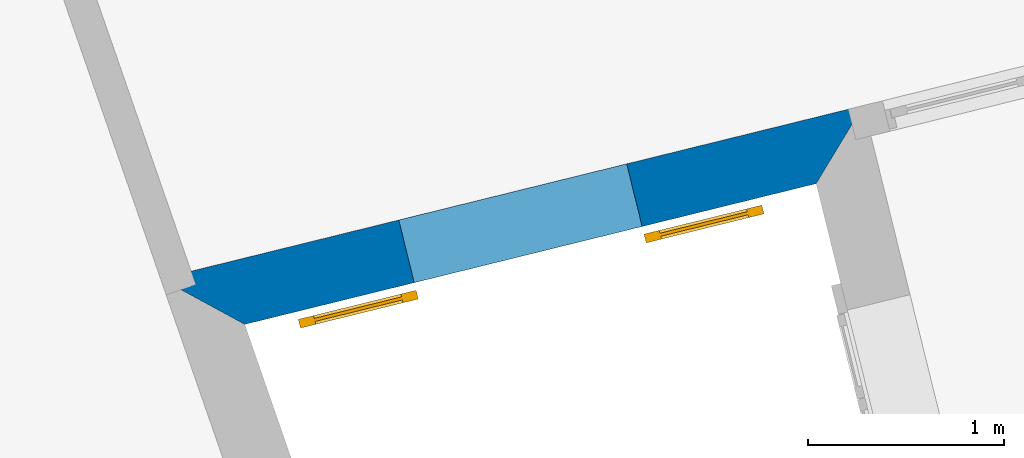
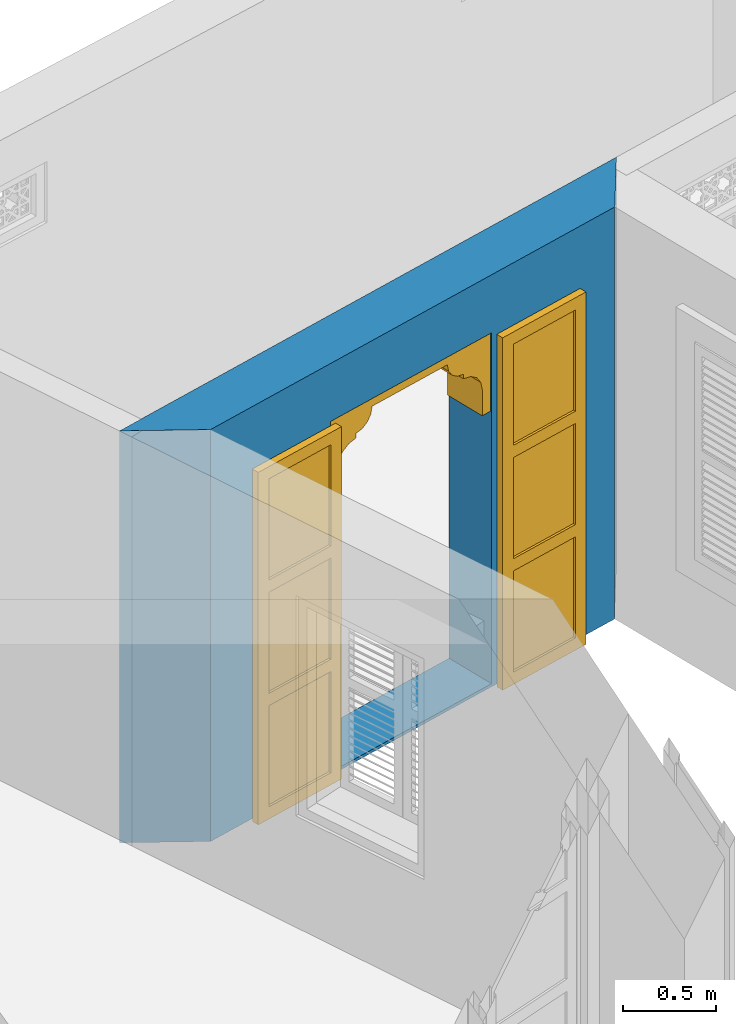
# One storey, part 7 of 12: 1 door, 1 wall, 1 opening.
"""IFC4 building model written with IfcOpenShell, lengths in metres."""

from ifc_helpers import new_model, si_unit, frame, origin, origin_with_axes, place, context, subcontext, project, spatial, polyline, outline, extrude, faceted_brep, source, transform, mapped, material, layer, layer_set, layer_usage, type_object, type_shapes, element, fill, save


model = new_model("IFC4")

# Units and contexts
model_context = context("Model", 3, world=origin_with_axes())
body_context = subcontext(model_context, "Body", "Model", "MODEL_VIEW")
ifc_project = project(units=[si_unit("PLANEANGLEUNIT", "RADIAN"), si_unit("MASSUNIT", "GRAM", prefix="KILO"), si_unit("FORCEUNIT", "NEWTON", prefix="KILO"), si_unit("LENGTHUNIT", "METRE"), si_unit("AREAUNIT", "SQUARE_METRE"), si_unit("VOLUMEUNIT", "CUBIC_METRE")], contexts=[model_context, model_context])

# Site, building, storey
site_placement = place(None, origin_with_axes())
site = spatial("IfcSite", under=ifc_project, at=site_placement, Name="Site plot-1", CompositionType="ELEMENT")
building_placement = place(None, origin_with_axes())
building = spatial("IfcBuilding", under=site, at=building_placement, Name="Building plot-1", CompositionType="ELEMENT")
storey_placement = place(None, origin_with_axes())
storey = spatial("IfcBuildingStorey", under=building, at=storey_placement, Name="plot-1 0", CompositionType="ELEMENT", Elevation=0.0)

# Wall, opening, door
ifc_material = material(Name="Masonry")
ifc_layer = layer(ifc_material, 0.33, ventilated=False)
ifc_layer_set = layer_set([ifc_layer], Name="exterior_0.08_0.25")
ifc_layer_usage = layer_usage(ifc_layer_set, "AXIS2", "POSITIVE", -0.25)
wall_type = type_object("IfcWallType", Name="exterior_0.08_0.25", PredefinedType="SOLIDWALL", material=ifc_layer_set)
wall_placement = place(storey_placement, frame((-1.5872585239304, 23.0501758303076, 0.0), z_axis=(0.0, 0.0, 1.0), x_axis=(0.970961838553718, 0.239234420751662, 0.0)))
wall = element("IfcWall", 1, at=wall_placement, inside=storey, type_object=wall_type, material=ifc_layer_usage, Name="exterior", context=body_context, shape_type="SweptSolid", body=[
    extrude(outline(polyline([(-0.0877822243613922, 0.0799999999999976), (0.274319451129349, -0.250000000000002), (3.28215081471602, -0.250000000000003), (3.61215081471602, 0.0799999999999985), (-0.0877822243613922, 0.0799999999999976)])), origin_with_axes(), (0.0, 0.0, 1.0), 2.7),
])
opening_placement = place(wall_placement, frame((1.16607540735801, 0.0, 0.02)))
opening = element("IfcOpeningElement", 2, at=opening_placement, cuts=wall, Name="My Opening", ObjectType="Opening", context=body_context, shape_type="SweptSolid", body=[
    extrude(outline(polyline([(0.0, -0.270000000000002), (1.2, -0.27), (1.2, 1.1), (2.22044604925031e-16, 1.1), (0.0, -0.270000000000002)])), origin_with_axes(), (0.0, 0.0, 1.0), 2.3),
])
door_type = type_object("IfcDoorType", Name="arch-1200x2300", OperationType="SINGLE_SWING_LEFT", PredefinedType="NOTDEFINED")
shared_shape = source(origin(), body_context, "Body", "Brep", [
    faceted_brep([(-0.08, -0.02, 0.08), (-0.08, -0.02, 0.0), (-0.54, -0.02, 0.0), (-0.54, -0.02, 0.08), (-0.62, -0.02, 0.0), (-0.62, -0.02, 0.08), (-0.54, -0.035, 0.08), (-0.08, -0.035, 0.08), (0.0, -0.02, 0.08), (0.0, -0.02, 0.0), (-0.08, -0.066, 0.0), (-0.54, -0.066, 0.0), (-0.62, -0.066, 0.0), (-0.62, -0.066, 0.08), (-0.54, -0.02, 0.743333), (-0.62, -0.02, 0.743333), (-0.54, -0.035, 0.743333), (-0.08, -0.035, 0.743333), (-0.08, -0.02, 0.743333), (0.0, -0.02, 0.743333), (0.0, -0.066, 0.08), (0.0, -0.066, 0.0), (-0.54, -0.066, 0.08), (-0.08, -0.066, 0.08), (-0.62, -0.066, 0.743333), (-0.54, -0.02, 0.823333), (-0.62, -0.02, 0.823333), (0.0, -0.066, 0.743333), (0.0, -0.02, 0.823333), (-0.08, -0.02, 0.823333), (-0.08, -0.051, 0.08), (-0.54, -0.051, 0.08), (-0.54, -0.066, 0.743333), (-0.62, -0.066, 0.823333), (-0.54, -0.02, 1.486667), (-0.62, -0.02, 1.486667), (0.0, -0.066, 0.823333), (-0.08, -0.066, 0.743333), (0.0, -0.02, 1.486667), (-0.08, -0.02, 1.486667), (-0.08, -0.051, 0.743333), (-0.54, -0.051, 0.743333), (-0.54, -0.066, 0.823333), (-0.62, -0.066, 1.486667), (-0.54, -0.035, 0.823333), (-0.08, -0.035, 0.823333), (-0.54, -0.035, 1.486667), (-0.54, -0.02, 1.566667), (-0.62, -0.02, 1.566667), (0.0, -0.066, 1.486667), (-0.08, -0.066, 0.823333), (-0.08, -0.035, 1.486667), (0.0, -0.02, 1.566667), (-0.08, -0.02, 1.566667), (-0.54, -0.066, 1.486667), (-0.62, -0.066, 1.566667), (-0.54, -0.02, 2.23), (-0.62, -0.02, 2.23), (0.0, -0.066, 1.566667), (-0.08, -0.066, 1.486667), (0.0, -0.02, 2.23), (-0.08, -0.02, 2.23), (-0.08, -0.051, 0.823333), (-0.54, -0.051, 0.823333), (-0.54, -0.051, 1.486667), (-0.54, -0.066, 1.566667), (-0.62, -0.066, 2.23), (-0.54, -0.035, 1.566667), (-0.08, -0.035, 1.566667), (-0.54, -0.035, 2.23), (-0.54, -0.02, 2.31), (-0.62, -0.02, 2.31), (0.0, -0.066, 2.23), (-0.08, -0.066, 1.566667), (-0.08, -0.051, 1.486667), (-0.08, -0.035, 2.23), (0.0, -0.02, 2.31), (-0.08, -0.02, 2.31), (-0.54, -0.066, 2.23), (-0.62, -0.066, 2.31), (-0.54, -0.066, 2.31), (0.0, -0.066, 2.31), (-0.08, -0.066, 2.23), (-0.08, -0.066, 2.31), (-0.08, -0.051, 1.566667), (-0.54, -0.051, 1.566667), (-0.54, -0.051, 2.23), (-0.08, -0.051, 2.23), (1.74, -0.02, 0.08), (1.74, -0.02, 0.0), (1.28, -0.02, 0.0), (1.28, -0.02, 0.08), (1.82, -0.02, 0.08), (1.82, -0.02, 0.0), (1.28, -0.035, 0.08), (1.74, -0.035, 0.08), (1.2, -0.02, 0.0), (1.2, -0.02, 0.08), (1.74, -0.066, 0.0), (1.28, -0.066, 0.0), (1.82, -0.066, 0.08), (1.82, -0.066, 0.0), (1.82, -0.02, 0.743333), (1.74, -0.02, 0.743333), (1.74, -0.035, 0.743333), (1.28, -0.035, 0.743333), (1.28, -0.02, 0.743333), (1.2, -0.02, 0.743333), (1.2, -0.066, 0.0), (1.2, -0.066, 0.08), (1.28, -0.066, 0.08), (1.74, -0.066, 0.08), (1.82, -0.066, 0.743333), (1.82, -0.02, 0.823333), (1.74, -0.02, 0.823333), (1.2, -0.066, 0.743333), (1.28, -0.02, 0.823333), (1.2, -0.02, 0.823333), (1.74, -0.051, 0.08), (1.28, -0.051, 0.08), (1.74, -0.066, 0.743333), (1.82, -0.066, 0.823333), (1.82, -0.02, 1.486667), (1.74, -0.02, 1.486667), (1.2, -0.066, 0.823333), (1.28, -0.066, 0.743333), (1.28, -0.02, 1.486667), (1.2, -0.02, 1.486667), (1.28, -0.051, 0.743333), (1.74, -0.051, 0.743333), (1.74, -0.066, 0.823333), (1.82, -0.066, 1.486667), (1.28, -0.035, 0.823333), (1.74, -0.035, 0.823333), (1.74, -0.035, 1.486667), (1.82, -0.02, 1.566667), (1.74, -0.02, 1.566667), (1.2, -0.066, 1.486667), (1.28, -0.066, 0.823333), (1.28, -0.035, 1.486667), (1.28, -0.02, 1.566667), (1.2, -0.02, 1.566667), (1.74, -0.066, 1.486667), (1.82, -0.066, 1.566667), (1.82, -0.02, 2.23), (1.74, -0.02, 2.23), (1.2, -0.066, 1.566667), (1.28, -0.066, 1.486667), (1.28, -0.02, 2.23), (1.2, -0.02, 2.23), (1.74, -0.051, 0.823333), (1.28, -0.051, 0.823333), (1.74, -0.051, 1.486667), (1.74, -0.066, 1.566667), (1.82, -0.066, 2.23), (1.28, -0.035, 1.566667), (1.74, -0.035, 1.566667), (1.74, -0.035, 2.23), (1.82, -0.02, 2.31), (1.74, -0.02, 2.31), (1.2, -0.066, 2.23), (1.28, -0.066, 1.566667), (1.28, -0.051, 1.486667), (1.28, -0.035, 2.23), (1.28, -0.02, 2.31), (1.2, -0.02, 2.31), (1.74, -0.066, 2.23), (1.82, -0.066, 2.31), (1.74, -0.066, 2.31), (1.2, -0.066, 2.31), (1.28, -0.066, 2.23), (1.28, -0.066, 2.31), (1.74, -0.051, 1.566667), (1.28, -0.051, 1.566667), (1.74, -0.051, 2.23), (1.28, -0.051, 2.23), (1.2, 0.03, 1.78), (1.2, 0.03, 1.95), (1.14, 0.03, 1.95), (1.14, 0.03, 1.78), (1.14, 0.3, 1.95), (1.14, 0.3, 1.78), (1.2, 0.03, 2.12), (1.129, 0.03, 2.004), (1.2, 0.3, 1.78), (1.2, 0.3, 1.95), (1.129, 0.3, 2.004), (1.099, 0.03, 2.049), (1.2, 0.3, 2.12), (1.099, 0.3, 2.049), (1.054, 0.03, 2.079), (1.2, 0.3, 2.29), (1.2, 0.03, 2.29), (1.054, 0.3, 2.079), (1.0, 0.03, 2.09), (1.0, 0.03, 2.12), (0.954, 0.03, 2.129), (0.88, 0.3, 2.29), (0.88, 0.03, 2.29), (1.0, 0.3, 2.12), (0.954, 0.3, 2.129), (1.0, 0.3, 2.09), (0.915, 0.03, 2.155), (0.889, 0.3, 2.194), (0.88, 0.3, 2.24), (0.88, 0.03, 2.24), (0.889, 0.03, 2.194), (0.915, 0.3, 2.155), (0.06, 0.03, 1.78), (0.06, 0.03, 1.95), (0.0, 0.03, 1.95), (0.0, 0.03, 1.78), (0.06, 0.3, 1.78), (0.06, 0.3, 1.95), (0.071, 0.03, 2.004), (0.0, 0.03, 2.12), (0.0, 0.3, 1.95), (0.0, 0.3, 1.78), (0.071, 0.3, 2.004), (0.101, 0.03, 2.049), (0.0, 0.3, 2.12), (0.101, 0.3, 2.049), (0.146, 0.03, 2.079), (0.0, 0.03, 2.29), (0.0, 0.3, 2.29), (0.146, 0.3, 2.079), (0.2, 0.03, 2.12), (0.2, 0.03, 2.09), (0.246, 0.03, 2.129), (0.32, 0.03, 2.29), (0.32, 0.3, 2.29), (0.246, 0.3, 2.129), (0.2, 0.3, 2.12), (0.2, 0.3, 2.09), (0.285, 0.03, 2.155), (0.32, 0.3, 2.24), (0.311, 0.3, 2.194), (0.311, 0.03, 2.194), (0.32, 0.03, 2.24), (0.285, 0.3, 2.155)], [[[0, 1, 2, 3]], [[4, 5, 3, 2]], [[0, 3, 6, 7]], [[1, 0, 8, 9]], [[2, 1, 10, 11]], [[5, 4, 12, 13]], [[14, 3, 5, 15]], [[4, 2, 11, 12]], [[3, 14, 16, 6]], [[6, 16, 17, 7]], [[18, 0, 7, 17]], [[0, 18, 19, 8]], [[9, 8, 20, 21]], [[1, 9, 21, 10]], [[22, 11, 10, 23]], [[13, 12, 11, 22]], [[15, 5, 13, 24]], [[25, 14, 15, 26]], [[14, 18, 17, 16]], [[8, 19, 27, 20]], [[28, 19, 18, 29]], [[23, 10, 21, 20]], [[22, 23, 30, 31]], [[22, 32, 24, 13]], [[26, 15, 24, 33]], [[29, 18, 14, 25]], [[34, 25, 26, 35]], [[19, 28, 36, 27]], [[20, 27, 37, 23]], [[38, 28, 29, 39]], [[23, 37, 40, 30]], [[41, 31, 30, 40]], [[32, 22, 31, 41]], [[32, 42, 33, 24]], [[35, 26, 33, 43]], [[29, 25, 44, 45]], [[25, 34, 46, 44]], [[47, 34, 35, 48]], [[28, 38, 49, 36]], [[27, 36, 50, 37]], [[39, 29, 45, 51]], [[52, 38, 39, 53]], [[37, 32, 41, 40]], [[37, 50, 42, 32]], [[42, 54, 43, 33]], [[48, 35, 43, 55]], [[44, 46, 51, 45]], [[34, 39, 51, 46]], [[34, 47, 53, 39]], [[56, 47, 48, 57]], [[38, 52, 58, 49]], [[36, 49, 59, 50]], [[60, 52, 53, 61]], [[42, 50, 62, 63]], [[54, 42, 63, 64]], [[54, 65, 55, 43]], [[57, 48, 55, 66]], [[53, 47, 67, 68]], [[47, 56, 69, 67]], [[70, 56, 57, 71]], [[52, 60, 72, 58]], [[49, 58, 73, 59]], [[50, 59, 74, 62]], [[61, 53, 68, 75]], [[76, 60, 61, 77]], [[64, 63, 62, 74]], [[59, 54, 64, 74]], [[65, 54, 59, 73]], [[65, 78, 66, 55]], [[71, 57, 66, 79]], [[67, 69, 75, 68]], [[56, 61, 75, 69]], [[77, 61, 56, 70]], [[70, 71, 79, 80]], [[60, 76, 81, 72]], [[58, 72, 82, 73]], [[76, 77, 83, 81]], [[65, 73, 84, 85]], [[78, 65, 85, 86]], [[78, 80, 79, 66]], [[77, 70, 80, 83]], [[72, 81, 83, 82]], [[73, 82, 87, 84]], [[86, 85, 84, 87]], [[82, 78, 86, 87]], [[82, 83, 80, 78]], [[88, 89, 90, 91]], [[89, 88, 92, 93]], [[94, 95, 88, 91]], [[96, 97, 91, 90]], [[98, 99, 90, 89]], [[100, 101, 93, 92]], [[102, 92, 88, 103]], [[101, 98, 89, 93]], [[95, 104, 103, 88]], [[94, 105, 104, 95]], [[105, 94, 91, 106]], [[97, 107, 106, 91]], [[108, 109, 97, 96]], [[99, 108, 96, 90]], [[110, 99, 98, 111]], [[111, 98, 101, 100]], [[112, 100, 92, 102]], [[113, 102, 103, 114]], [[104, 105, 106, 103]], [[109, 115, 107, 97]], [[116, 106, 107, 117]], [[109, 108, 99, 110]], [[118, 119, 110, 111]], [[100, 112, 120, 111]], [[121, 112, 102, 113]], [[114, 103, 106, 116]], [[122, 113, 114, 123]], [[115, 124, 117, 107]], [[110, 125, 115, 109]], [[126, 116, 117, 127]], [[119, 128, 125, 110]], [[128, 119, 118, 129]], [[129, 118, 111, 120]], [[112, 121, 130, 120]], [[131, 121, 113, 122]], [[132, 133, 114, 116]], [[133, 134, 123, 114]], [[135, 122, 123, 136]], [[124, 137, 127, 117]], [[125, 138, 124, 115]], [[139, 132, 116, 126]], [[140, 126, 127, 141]], [[128, 129, 120, 125]], [[120, 130, 138, 125]], [[121, 131, 142, 130]], [[143, 131, 122, 135]], [[132, 139, 134, 133]], [[134, 139, 126, 123]], [[126, 140, 136, 123]], [[144, 135, 136, 145]], [[137, 146, 141, 127]], [[138, 147, 137, 124]], [[148, 140, 141, 149]], [[150, 151, 138, 130]], [[152, 150, 130, 142]], [[131, 143, 153, 142]], [[154, 143, 135, 144]], [[155, 156, 136, 140]], [[156, 157, 145, 136]], [[158, 144, 145, 159]], [[146, 160, 149, 141]], [[147, 161, 146, 137]], [[151, 162, 147, 138]], [[163, 155, 140, 148]], [[164, 148, 149, 165]], [[162, 151, 150, 152]], [[162, 152, 142, 147]], [[161, 147, 142, 153]], [[143, 154, 166, 153]], [[167, 154, 144, 158]], [[155, 163, 157, 156]], [[157, 163, 148, 145]], [[159, 145, 148, 164]], [[168, 167, 158, 159]], [[160, 169, 165, 149]], [[161, 170, 160, 146]], [[169, 171, 164, 165]], [[172, 173, 161, 153]], [[174, 172, 153, 166]], [[154, 167, 168, 166]], [[171, 168, 159, 164]], [[170, 171, 169, 160]], [[173, 175, 170, 161]], [[175, 173, 172, 174]], [[175, 174, 166, 170]], [[166, 168, 171, 170]], [[176, 177, 178, 179]], [[180, 181, 179, 178]], [[177, 182, 183, 178]], [[177, 176, 184, 185]], [[181, 184, 176, 179]], [[181, 180, 185, 184]], [[186, 180, 178, 183]], [[182, 187, 183]], [[182, 177, 185, 188]], [[180, 186, 188, 185]], [[189, 186, 183, 187]], [[182, 190, 187]], [[188, 191, 192, 182]], [[188, 186, 189]], [[193, 189, 187, 190]], [[194, 190, 182, 195]], [[182, 192, 196, 195]], [[192, 191, 197, 198]], [[199, 200, 191, 188]], [[188, 189, 193]], [[201, 193, 190, 194]], [[199, 201, 194, 195]], [[200, 199, 195, 196]], [[192, 202, 196]], [[191, 203, 204, 197]], [[192, 198, 205, 206]], [[207, 191, 200]], [[199, 188, 193, 201]], [[207, 200, 196, 202]], [[192, 206, 202]], [[204, 203, 206, 205]], [[203, 191, 207]], [[203, 207, 202, 206]], [[208, 209, 210, 211]], [[209, 208, 212, 213]], [[209, 214, 215, 210]], [[211, 210, 216, 217]], [[208, 211, 217, 212]], [[217, 216, 213, 212]], [[214, 209, 213, 218]], [[214, 219, 215]], [[220, 216, 210, 215]], [[216, 220, 218, 213]], [[219, 214, 218, 221]], [[219, 222, 215]], [[215, 223, 224, 220]], [[221, 218, 220]], [[222, 219, 221, 225]], [[226, 215, 222, 227]], [[226, 228, 223, 215]], [[229, 230, 224, 223]], [[220, 224, 231, 232]], [[225, 221, 220]], [[227, 222, 225, 233]], [[226, 227, 233, 232]], [[228, 226, 232, 231]], [[228, 234, 223]], [[230, 235, 236, 224]], [[237, 238, 229, 223]], [[231, 224, 239]], [[233, 225, 220, 232]], [[234, 228, 231, 239]], [[234, 237, 223]], [[238, 237, 236, 235]], [[239, 224, 236]], [[237, 234, 239, 236]], [[238, 235, 204, 205]], [[235, 230, 197, 204]], [[229, 238, 205, 198]], [[230, 229, 198, 197]]]),
])
type_shapes(door_type, [shared_shape])
door_placement = place(storey_placement, frame((-0.390450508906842, 23.0669815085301, 0.02), z_axis=(0.0, 0.0, 1.0), x_axis=(1.16515420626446, 0.287081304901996, 0.0)))
door = element("IfcDoor", 3, at=door_placement, inside=storey, type_object=door_type, Name="circulation sahn door", OverallHeight=2.3, OverallWidth=1.2, context=body_context, shape_type="MappedRepresentation", body=[
    mapped(shared_shape, transform((0.0, 0.0, 0.0), scale=1.0)),
])
fill(opening, door)

save(model, "model.ifc")
